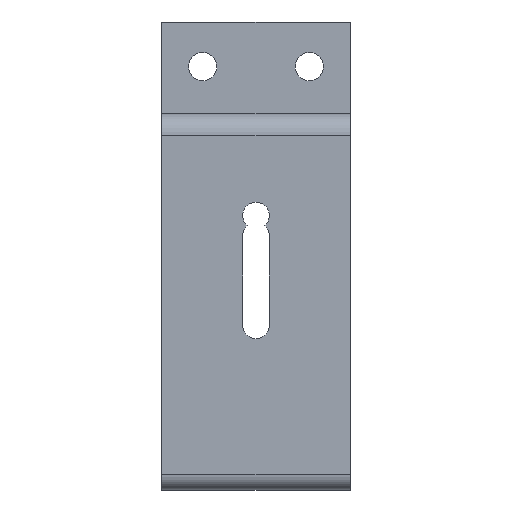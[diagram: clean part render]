
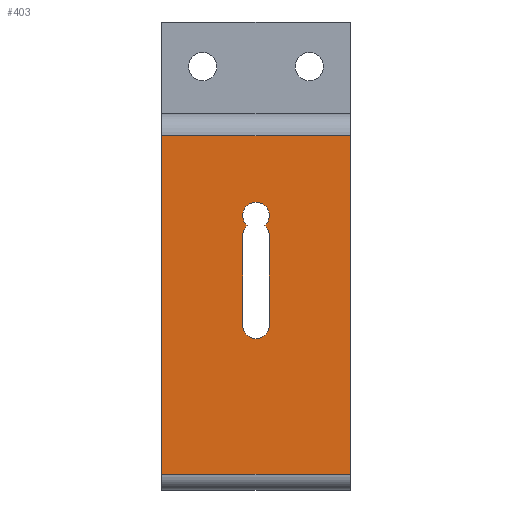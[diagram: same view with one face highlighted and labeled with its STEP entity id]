
A CAD part, front view. The second image highlights one B-rep face of the part: STEP entity #403.
In plain terms, the highlighted planar face has unit normal (0, -1, 0).
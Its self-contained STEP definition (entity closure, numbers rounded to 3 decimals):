
#25 = EDGE_LOOP ( 'NONE', ( #898, #910, #503, #583 ) ) ;
#44 = CARTESIAN_POINT ( 'NONE',  ( 14., 0., 5. ) ) ;
#63 = VECTOR ( 'NONE', #1333, 1000. ) ;
#76 = DIRECTION ( 'NONE',  ( 0., 0., -1. ) ) ;
#82 = CARTESIAN_POINT ( 'NONE',  ( 14., 0., 5. ) ) ;
#84 = CARTESIAN_POINT ( 'NONE',  ( 74., 0., 5. ) ) ;
#104 = VERTEX_POINT ( 'NONE', #942 ) ;
#132 = CIRCLE ( 'NONE', #689, 4.25 ) ;
#145 = EDGE_CURVE ( 'NONE', #502, #610, #426, .T. ) ;
#146 = DIRECTION ( 'NONE',  ( 1., 0., 0. ) ) ;
#162 = CIRCLE ( 'NONE', #589, 4.25 ) ;
#184 = VERTEX_POINT ( 'NONE', #1091 ) ;
#197 = EDGE_LOOP ( 'NONE', ( #1143, #349, #896, #959, #1061, #1216, #712 ) ) ;
#239 = DIRECTION ( 'NONE',  ( 0., 0., -1. ) ) ;
#250 = CARTESIAN_POINT ( 'NONE',  ( 14., 0., 112.952 ) ) ;
#253 = VERTEX_POINT ( 'NONE', #971 ) ;
#271 = DIRECTION ( 'NONE',  ( 0., -1., 0. ) ) ;
#298 = DIRECTION ( 'NONE',  ( 0., 0., -1. ) ) ;
#349 = ORIENTED_EDGE ( 'NONE', *, *, #786, .F. ) ;
#356 = LINE ( 'NONE', #632, #733 ) ;
#361 = VERTEX_POINT ( 'NONE', #1005 ) ;
#374 = LINE ( 'NONE', #528, #546 ) ;
#388 = CARTESIAN_POINT ( 'NONE',  ( 46.779, 0., 84.284 ) ) ;
#403 = ADVANCED_FACE ( 'NONE', ( #595, #1244 ), #575, .T. ) ;
#408 = DIRECTION ( 'NONE',  ( 0., 0., -1. ) ) ;
#412 = CARTESIAN_POINT ( 'NONE',  ( 74., 0., 112.952 ) ) ;
#426 = CIRCLE ( 'NONE', #779, 4.25 ) ;
#441 = LINE ( 'NONE', #1226, #1257 ) ;
#452 = VERTEX_POINT ( 'NONE', #84 ) ;
#455 = DIRECTION ( 'NONE',  ( 0., 0., -1. ) ) ;
#485 = VERTEX_POINT ( 'NONE', #708 ) ;
#498 = EDGE_CURVE ( 'NONE', #104, #485, #656, .T. ) ;
#502 = VERTEX_POINT ( 'NONE', #388 ) ;
#503 = ORIENTED_EDGE ( 'NONE', *, *, #1193, .F. ) ;
#528 = CARTESIAN_POINT ( 'NONE',  ( 39.75, 0., 81.069 ) ) ;
#546 = VECTOR ( 'NONE', #1154, 1000. ) ;
#553 = EDGE_CURVE ( 'NONE', #485, #184, #1056, .T. ) ;
#555 = CARTESIAN_POINT ( 'NONE',  ( 44., 0., 87.5 ) ) ;
#573 = EDGE_CURVE ( 'NONE', #253, #104, #374, .T. ) ;
#575 = PLANE ( 'NONE',  #1075 ) ;
#580 = VERTEX_POINT ( 'NONE', #412 ) ;
#583 = ORIENTED_EDGE ( 'NONE', *, *, #854, .F. ) ;
#589 = AXIS2_PLACEMENT_3D ( 'NONE', #737, #1171, #298 ) ;
#592 = DIRECTION ( 'NONE',  ( 0., 0., -1. ) ) ;
#595 = FACE_BOUND ( 'NONE', #197, .T. ) ;
#598 = CARTESIAN_POINT ( 'NONE',  ( 44., 0., 52.5 ) ) ;
#610 = VERTEX_POINT ( 'NONE', #1373 ) ;
#632 = CARTESIAN_POINT ( 'NONE',  ( 74., 0., 112.952 ) ) ;
#652 = DIRECTION ( 'NONE',  ( 0., -1., 0. ) ) ;
#656 = CIRCLE ( 'NONE', #902, 4.25 ) ;
#667 = CARTESIAN_POINT ( 'NONE',  ( 14., 0., 112.952 ) ) ;
#689 = AXIS2_PLACEMENT_3D ( 'NONE', #1209, #987, #455 ) ;
#702 = LINE ( 'NONE', #667, #1296 ) ;
#708 = CARTESIAN_POINT ( 'NONE',  ( 44., 0., 48.25 ) ) ;
#712 = ORIENTED_EDGE ( 'NONE', *, *, #1212, .F. ) ;
#733 = VECTOR ( 'NONE', #1372, 1000. ) ;
#737 = CARTESIAN_POINT ( 'NONE',  ( 44., 0., 81.069 ) ) ;
#762 = CARTESIAN_POINT ( 'NONE',  ( 14., 0., 112.952 ) ) ;
#768 = CARTESIAN_POINT ( 'NONE',  ( 48.25, 0., 52.5 ) ) ;
#779 = AXIS2_PLACEMENT_3D ( 'NONE', #555, #652, #239 ) ;
#786 = EDGE_CURVE ( 'NONE', #361, #502, #132, .T. ) ;
#801 = DIRECTION ( 'NONE',  ( 0., 0., -1. ) ) ;
#825 = VERTEX_POINT ( 'NONE', #44 ) ;
#854 = EDGE_CURVE ( 'NONE', #875, #580, #702, .T. ) ;
#875 = VERTEX_POINT ( 'NONE', #762 ) ;
#876 = EDGE_CURVE ( 'NONE', #184, #361, #1211, .T. ) ;
#896 = ORIENTED_EDGE ( 'NONE', *, *, #876, .F. ) ;
#898 = ORIENTED_EDGE ( 'NONE', *, *, #911, .T. ) ;
#902 = AXIS2_PLACEMENT_3D ( 'NONE', #598, #271, #592 ) ;
#910 = ORIENTED_EDGE ( 'NONE', *, *, #1039, .T. ) ;
#911 = EDGE_CURVE ( 'NONE', #875, #825, #441, .T. ) ;
#933 = CARTESIAN_POINT ( 'NONE',  ( 44., 0., 52.5 ) ) ;
#942 = CARTESIAN_POINT ( 'NONE',  ( 39.75, 0., 52.5 ) ) ;
#959 = ORIENTED_EDGE ( 'NONE', *, *, #553, .F. ) ;
#971 = CARTESIAN_POINT ( 'NONE',  ( 39.75, 0., 81.069 ) ) ;
#987 = DIRECTION ( 'NONE',  ( 0., -1., 0. ) ) ;
#1005 = CARTESIAN_POINT ( 'NONE',  ( 48.25, 0., 81.069 ) ) ;
#1028 = DIRECTION ( 'NONE',  ( 0., -1., 0. ) ) ;
#1039 = EDGE_CURVE ( 'NONE', #825, #452, #1358, .T. ) ;
#1056 = CIRCLE ( 'NONE', #1207, 4.25 ) ;
#1061 = ORIENTED_EDGE ( 'NONE', *, *, #498, .F. ) ;
#1073 = VECTOR ( 'NONE', #1238, 1000. ) ;
#1075 = AXIS2_PLACEMENT_3D ( 'NONE', #250, #1028, #76 ) ;
#1091 = CARTESIAN_POINT ( 'NONE',  ( 48.25, 0., 52.5 ) ) ;
#1143 = ORIENTED_EDGE ( 'NONE', *, *, #145, .F. ) ;
#1154 = DIRECTION ( 'NONE',  ( 0., 0., -1. ) ) ;
#1171 = DIRECTION ( 'NONE',  ( 0., -1., 0. ) ) ;
#1193 = EDGE_CURVE ( 'NONE', #580, #452, #356, .T. ) ;
#1207 = AXIS2_PLACEMENT_3D ( 'NONE', #933, #1360, #408 ) ;
#1209 = CARTESIAN_POINT ( 'NONE',  ( 44., 0., 81.069 ) ) ;
#1211 = LINE ( 'NONE', #768, #63 ) ;
#1212 = EDGE_CURVE ( 'NONE', #610, #253, #162, .T. ) ;
#1216 = ORIENTED_EDGE ( 'NONE', *, *, #573, .F. ) ;
#1226 = CARTESIAN_POINT ( 'NONE',  ( 14., 0., 112.952 ) ) ;
#1238 = DIRECTION ( 'NONE',  ( 1., 0., 0. ) ) ;
#1244 = FACE_OUTER_BOUND ( 'NONE', #25, .T. ) ;
#1257 = VECTOR ( 'NONE', #801, 1000. ) ;
#1296 = VECTOR ( 'NONE', #146, 1000. ) ;
#1333 = DIRECTION ( 'NONE',  ( 0., 0., 1. ) ) ;
#1358 = LINE ( 'NONE', #82, #1073 ) ;
#1360 = DIRECTION ( 'NONE',  ( 0., -1., 0. ) ) ;
#1372 = DIRECTION ( 'NONE',  ( 0., 0., -1. ) ) ;
#1373 = CARTESIAN_POINT ( 'NONE',  ( 41.221, 0., 84.284 ) ) ;
